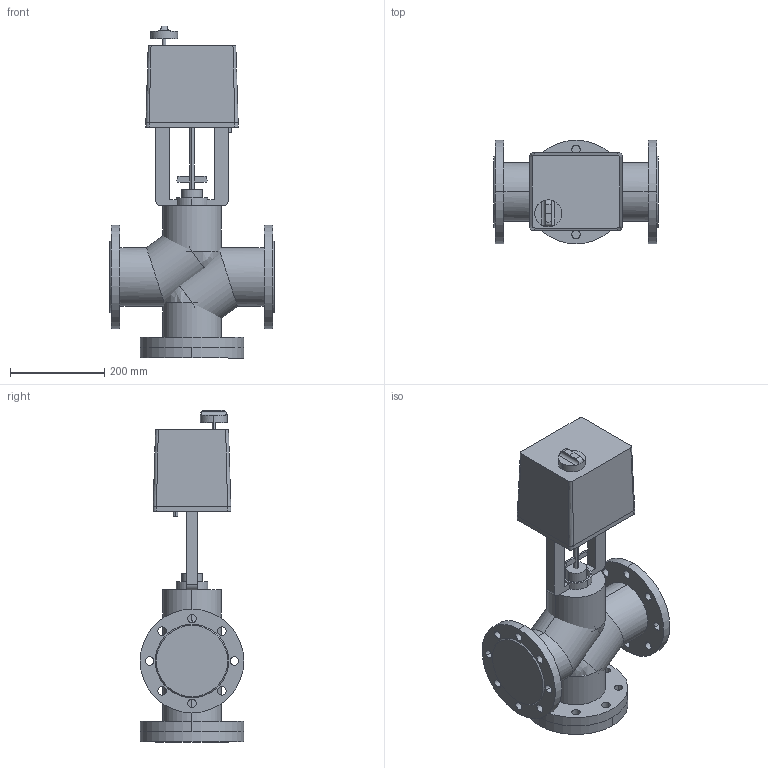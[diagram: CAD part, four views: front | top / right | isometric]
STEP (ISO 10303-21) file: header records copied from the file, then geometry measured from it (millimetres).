
FILE_DESCRIPTION(/* description */ (''),/* implementation_level */ '2;1');
FILE_NAME(/* name */ 'ТРК DN100 PN 1.6 МПа LEA 4000',/* time_stamp */ '2026-07-14T23:04:06+03:00',/* author */ (''),/* organization */ (''),/* preprocessor_version */ 'ST-DEVELOPER v20',/* originating_system */ '',/* authorisation */ '');
FILE_SCHEMA (('AP242_MANAGED_MODEL_BASED_3D_ENGINEERING_MIM_LF { 1 0 10303 442 1 1 4 }'));
Length unit declared in the file: millimetre
Products named in the file (14): TopLevelAssembly; Выдавливание; Модификатор; Модификатор_1; Выдавливание_
1; Выдавливание_
2; Вращение; Выдавливание_
3; Выдавливание_
4; 1600; Переход; Объемная геометрия 
присоединена; Полый Выдавливание; Объемная геометрия 
присоединена_1
Assembly tree (13 placements, depth 2):
  TopLevelAssembly
    Выдавливание
    Модификатор
    Модификатор_1
    Выдавливание_
1
    Выдавливание_
2
    Вращение
    Выдавливание_
3
    Выдавливание_
4
    1600
    Переход
    Объемная геометрия 
присоединена
    Полый Выдавливание
    Объемная геометрия 
присоединена_1
Bounding box: 350 x 220 x 705 mm (x, y, z)
Volume: 16630577.3 mm3; surface area: 1117781.5 mm2
Topology: 18 solids, 18 shells, 186 faces, 444 edges, 290 vertices
Faces by surface type: cylinder 96, plane 76, bspline 10, cone 4
Entity records: 6231 total; most frequent: CARTESIAN_POINT 1235, DIRECTION 1052, ORIENTED_EDGE 872, EDGE_CURVE 436, AXIS2_PLACEMENT_3D 425, VERTEX_POINT 290, EDGE_LOOP 244, CIRCLE 214
